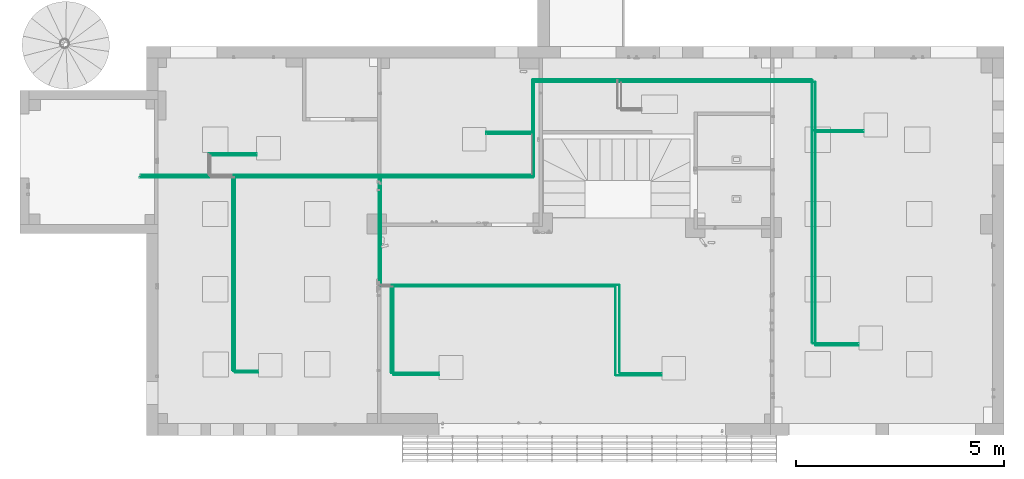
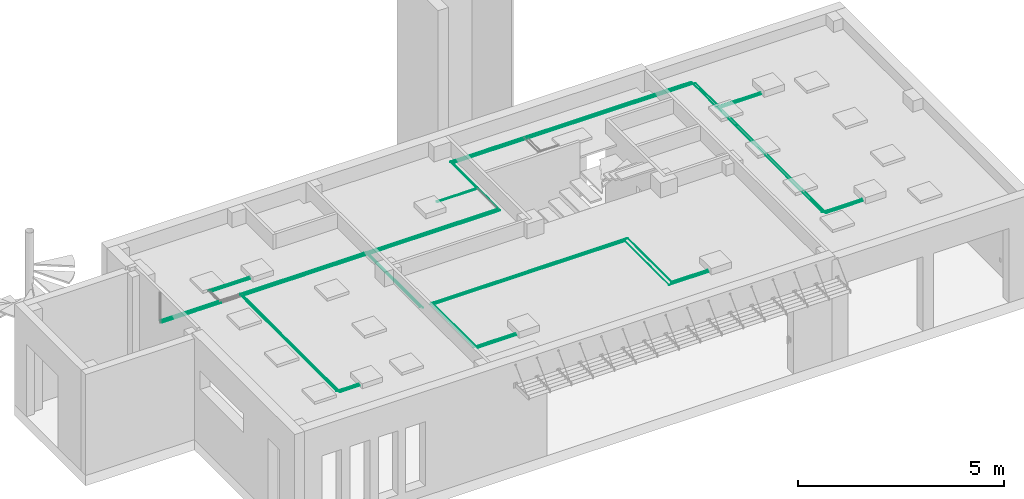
# One storey, part 5 of 24: 41 flow segments.
"""IFC2X3 building model written with IfcOpenShell, lengths in millimetres."""

from ifc_helpers import new_model, entity, si_unit, converted_unit, derived_unit, direction, frame, origin, origin_2d_with_axis, place, context, subcontext, project, spatial, circle, extrude, source, transform, mapped, material, type_object, type_shapes, element, save


model = new_model("IFC2X3")

# Units and contexts
model_context = context("Model", 3, precision=0.01, world=origin(), true_north=direction((6.123031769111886e-17, 1.0)))
body_context = subcontext(model_context, "Body", "Model", "MODEL_VIEW")
ifc_project = project(units=[si_unit("LENGTHUNIT", "METRE", prefix="MILLI"), si_unit("AREAUNIT", "SQUARE_METRE"), si_unit("VOLUMEUNIT", "CUBIC_METRE"), converted_unit("PLANEANGLEUNIT", "DEGREE", entity("IfcRatioMeasure", 0.017453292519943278), si_unit("PLANEANGLEUNIT", "RADIAN"), dimensions=[0, 0, 0, 0, 0, 0, 0]), si_unit("MASSUNIT", "GRAM", prefix="KILO"), derived_unit("MASSDENSITYUNIT", [(si_unit("MASSUNIT", "GRAM", prefix="KILO"), 1), (si_unit("LENGTHUNIT", "METRE"), -3)]), derived_unit("MOMENTOFINERTIAUNIT", [(si_unit("LENGTHUNIT", "METRE"), 4)]), si_unit("TIMEUNIT", "SECOND"), si_unit("FREQUENCYUNIT", "HERTZ"), si_unit("THERMODYNAMICTEMPERATUREUNIT", "DEGREE_CELSIUS"), derived_unit("THERMALTRANSMITTANCEUNIT", [(si_unit("MASSUNIT", "GRAM", prefix="KILO"), 1), (si_unit("THERMODYNAMICTEMPERATUREUNIT", "KELVIN"), -1), (si_unit("TIMEUNIT", "SECOND"), -3)]), derived_unit("VOLUMETRICFLOWRATEUNIT", [(si_unit("LENGTHUNIT", "METRE"), 3), (si_unit("TIMEUNIT", "SECOND"), -1)]), derived_unit("MASSFLOWRATEUNIT", [(si_unit("MASSUNIT", "GRAM", prefix="KILO"), 1), (si_unit("TIMEUNIT", "SECOND"), -1)]), derived_unit("ROTATIONALFREQUENCYUNIT", [(si_unit("TIMEUNIT", "SECOND"), -1)]), si_unit("ELECTRICCURRENTUNIT", "AMPERE"), si_unit("ELECTRICVOLTAGEUNIT", "VOLT"), si_unit("POWERUNIT", "WATT"), si_unit("FORCEUNIT", "NEWTON", prefix="KILO"), si_unit("ILLUMINANCEUNIT", "LUX"), si_unit("LUMINOUSFLUXUNIT", "LUMEN"), si_unit("LUMINOUSINTENSITYUNIT", "CANDELA"), derived_unit("USERDEFINED", [(si_unit("MASSUNIT", "GRAM", prefix="KILO"), -1), (si_unit("LENGTHUNIT", "METRE"), -2), (si_unit("TIMEUNIT", "SECOND"), 3), (si_unit("LUMINOUSFLUXUNIT", "LUMEN"), 1)]), derived_unit("SOUNDPOWERUNIT", [(si_unit("MASSUNIT", "GRAM", prefix="KILO"), 1), (si_unit("LENGTHUNIT", "METRE"), 2), (si_unit("TIMEUNIT", "SECOND"), -3)]), derived_unit("SOUNDPRESSUREUNIT", [(si_unit("MASSUNIT", "GRAM", prefix="KILO"), 1), (si_unit("LENGTHUNIT", "METRE"), -1), (si_unit("TIMEUNIT", "SECOND"), -2)]), derived_unit("LINEARVELOCITYUNIT", [(si_unit("LENGTHUNIT", "METRE"), 1), (si_unit("TIMEUNIT", "SECOND"), -1)]), si_unit("PRESSUREUNIT", "PASCAL"), derived_unit("USERDEFINED", [(si_unit("LENGTHUNIT", "METRE"), -2), (si_unit("MASSUNIT", "GRAM", prefix="KILO"), 1), (si_unit("TIMEUNIT", "SECOND"), -2)]), derived_unit("LINEARFORCEUNIT", [(si_unit("MASSUNIT", "GRAM", prefix="KILO"), 1), (si_unit("LENGTHUNIT", "METRE"), 1), (si_unit("TIMEUNIT", "SECOND"), -2), (si_unit("LENGTHUNIT", "METRE"), -1)]), derived_unit("PLANARFORCEUNIT", [(si_unit("MASSUNIT", "GRAM", prefix="KILO"), 1), (si_unit("LENGTHUNIT", "METRE"), 1), (si_unit("TIMEUNIT", "SECOND"), -2), (si_unit("LENGTHUNIT", "METRE"), -2)])], contexts=[model_context])

# Site, building, storey
site_placement = place(None, origin())
site = spatial("IfcSite", under=ifc_project, at=site_placement, Name="Default", CompositionType="ELEMENT")
building_placement = place(site_placement, origin())
building = spatial("IfcBuilding", under=site, at=building_placement, CompositionType="ELEMENT")
storey_placement = place(building_placement, origin())
storey = spatial("IfcBuildingStorey", under=building, at=storey_placement, Name="Level 1", CompositionType="ELEMENT", Elevation=0.0)

# Flow segments
ifc_material = material(Name="<Unnamed>")
pipe_segment_type_1 = type_object("IfcPipeSegmentType", Name="Pipe Types:Standard:Standard : Pipe Types:Standard", PredefinedType="NOTDEFINED", material=ifc_material)
shared_shape_1 = source(origin(), body_context, "Body", "SweptSolid", [
    extrude(circle(Radius=6.35, at=origin_2d_with_axis()), frame((6624.9039854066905, -1863.729256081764, 2710.0), z_axis=(1.0, 0.0, 0.0), x_axis=(0.0, 1.0, 0.0)), (0.0, 0.0, 1.0), 1101.7437499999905),
])
type_shapes(pipe_segment_type_1, [shared_shape_1])
flow_segment_1_placement = place(storey_placement, origin())
element("IfcFlowSegment", 1, at=flow_segment_1_placement, inside=storey, type_object=pipe_segment_type_1, material=ifc_material, Name="Pipe Types:Standard:Standard : Pipe Types:Standard:Standard:Standard : Pipe Types:Standard : Pipe Types:Standard:Standard : Pipe Types:Standard", ObjectType="Pipe Types:Standard:Standard : Pipe Types:Standard:Standard:Standard : Pipe Types:Standard : Pipe Types:Standard:Standard : Pipe Types:Standard", context=body_context, shape_type="MappedRepresentation", body=[
    mapped(shared_shape_1, transform((0.0, 0.0, 0.0), scale=1.0)),
])
pipe_segment_type_2 = type_object("IfcPipeSegmentType", Name="Pipe Types:Standard:Standard : Pipe Types:Standard", PredefinedType="NOTDEFINED", material=ifc_material)
shared_shape_2 = source(origin(), body_context, "Body", "SweptSolid", [
    extrude(circle(Radius=6.35, at=origin_2d_with_axis()), frame((6610.616485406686, 3287.32619877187, 2710.0), z_axis=(0.0, 1.0, 0.0), x_axis=(1.0, 0.0, 0.0)), (0.0, 0.0, 1.0), 1188.40704514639),
])
type_shapes(pipe_segment_type_2, [shared_shape_2])
flow_segment_2_placement = place(storey_placement, origin())
element("IfcFlowSegment", 2, at=flow_segment_2_placement, inside=storey, type_object=pipe_segment_type_2, material=ifc_material, Name="Pipe Types:Standard:Standard : Pipe Types:Standard:Standard:Standard : Pipe Types:Standard : Pipe Types:Standard:Standard : Pipe Types:Standard", ObjectType="Pipe Types:Standard:Standard : Pipe Types:Standard:Standard:Standard : Pipe Types:Standard : Pipe Types:Standard:Standard : Pipe Types:Standard", context=body_context, shape_type="MappedRepresentation", body=[
    mapped(shared_shape_2, transform((0.0, 0.0, 0.0), scale=1.0)),
])
pipe_segment_type_3 = type_object("IfcPipeSegmentType", Name="Pipe Types:Standard:Standard : Pipe Types:Standard", PredefinedType="NOTDEFINED", material=ifc_material)
shared_shape_3 = source(origin(), body_context, "Body", "SweptSolid", [
    extrude(circle(Radius=3.175, at=origin_2d_with_axis()), frame((6700.14148540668, -1911.8542560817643, 2690.0), z_axis=(1.0, 0.0, 0.0), x_axis=(0.0, 1.0, 0.0)), (0.0, 0.0, 1.0), 1028.0812499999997),
])
type_shapes(pipe_segment_type_3, [shared_shape_3])
flow_segment_3_placement = place(storey_placement, origin())
element("IfcFlowSegment", 3, at=flow_segment_3_placement, inside=storey, type_object=pipe_segment_type_3, material=ifc_material, Name="Pipe Types:Standard:Standard : Pipe Types:Standard:Standard:Standard : Pipe Types:Standard : Pipe Types:Standard:Standard : Pipe Types:Standard", ObjectType="Pipe Types:Standard:Standard : Pipe Types:Standard:Standard:Standard : Pipe Types:Standard : Pipe Types:Standard:Standard : Pipe Types:Standard", context=body_context, shape_type="MappedRepresentation", body=[
    mapped(shared_shape_3, transform((0.0, 0.0, 0.0), scale=1.0)),
])
pipe_segment_type_4 = type_object("IfcPipeSegmentType", Name="Pipe Types:Standard:Standard : Pipe Types:Standard", PredefinedType="NOTDEFINED", material=ifc_material)
shared_shape_4 = source(origin(), body_context, "Body", "SweptSolid", [
    extrude(circle(Radius=3.97, at=origin_2d_with_axis()), frame((6690.6164854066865, 3236.8199487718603, 2690.0), z_axis=(0.0, 1.0, 0.0), x_axis=(1.0, 0.0, 0.0)), (0.0, 0.0, 1.0), 1183.1312023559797),
])
type_shapes(pipe_segment_type_4, [shared_shape_4])
flow_segment_4_placement = place(storey_placement, origin())
element("IfcFlowSegment", 4, at=flow_segment_4_placement, inside=storey, type_object=pipe_segment_type_4, material=ifc_material, Name="Pipe Types:Standard:Standard : Pipe Types:Standard:Standard:Standard : Pipe Types:Standard : Pipe Types:Standard:Standard : Pipe Types:Standard", ObjectType="Pipe Types:Standard:Standard : Pipe Types:Standard:Standard:Standard : Pipe Types:Standard : Pipe Types:Standard:Standard : Pipe Types:Standard", context=body_context, shape_type="MappedRepresentation", body=[
    mapped(shared_shape_4, transform((0.0, 0.0, 0.0), scale=1.0)),
])
pipe_segment_type_5 = type_object("IfcPipeSegmentType", Name="Pipe Types:Standard:Standard : Pipe Types:Standard", PredefinedType="NOTDEFINED", material=ifc_material)
shared_shape_5 = source(origin(), body_context, "Body", "SweptSolid", [
    extrude(circle(Radius=3.175, at=origin_2d_with_axis()), frame((6706.49148540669, 3218.563698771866, 2690.0), z_axis=(1.0, 0.0, 0.0), x_axis=(0.0, -1.0, 0.0)), (0.0, 0.0, 1.0), 1143.58271810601),
])
type_shapes(pipe_segment_type_5, [shared_shape_5])
flow_segment_5_placement = place(storey_placement, origin())
element("IfcFlowSegment", 5, at=flow_segment_5_placement, inside=storey, type_object=pipe_segment_type_5, material=ifc_material, Name="Pipe Types:Standard:Standard : Pipe Types:Standard:Standard:Standard : Pipe Types:Standard : Pipe Types:Standard:Standard : Pipe Types:Standard", ObjectType="Pipe Types:Standard:Standard : Pipe Types:Standard:Standard:Standard : Pipe Types:Standard : Pipe Types:Standard:Standard : Pipe Types:Standard", context=body_context, shape_type="MappedRepresentation", body=[
    mapped(shared_shape_5, transform((0.0, 0.0, 0.0), scale=1.0)),
])
pipe_segment_type_6 = type_object("IfcPipeSegmentType", Name="Pipe Types:Standard:Standard : Pipe Types:Standard", PredefinedType="NOTDEFINED", material=ifc_material)
shared_shape_6 = source(origin(), body_context, "Body", "SweptSolid", [
    extrude(circle(Radius=3.175, at=origin_2d_with_axis()), frame((6690.6164854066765, -1902.32925608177, 2690.0), z_axis=(0.0, 1.0, 0.0), x_axis=(1.0, 0.0, 0.0)), (0.0, 0.0, 1.0), 5105.01795485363),
])
type_shapes(pipe_segment_type_6, [shared_shape_6])
flow_segment_6_placement = place(storey_placement, origin())
element("IfcFlowSegment", 6, at=flow_segment_6_placement, inside=storey, type_object=pipe_segment_type_6, material=ifc_material, Name="Pipe Types:Standard:Standard : Pipe Types:Standard:Standard:Standard : Pipe Types:Standard : Pipe Types:Standard:Standard : Pipe Types:Standard", ObjectType="Pipe Types:Standard:Standard : Pipe Types:Standard:Standard:Standard : Pipe Types:Standard : Pipe Types:Standard:Standard : Pipe Types:Standard", context=body_context, shape_type="MappedRepresentation", body=[
    mapped(shared_shape_6, transform((0.0, 0.0, 0.0), scale=1.0)),
])
pipe_segment_type_7 = type_object("IfcPipeSegmentType", Name="Pipe Types:Standard:Standard : Pipe Types:Standard", PredefinedType="NOTDEFINED", material=ifc_material)
shared_shape_7 = source(origin(), body_context, "Body", "SweptSolid", [
    extrude(circle(Radius=6.35, at=origin_2d_with_axis()), frame((6631.25398540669, 3266.6886987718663, 2710.0), z_axis=(1.0, 0.0, 0.0), x_axis=(0.0, -1.0, 0.0)), (0.0, 0.0, 1.0), 1217.2452181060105),
])
type_shapes(pipe_segment_type_7, [shared_shape_7])
flow_segment_7_placement = place(storey_placement, origin())
element("IfcFlowSegment", 7, at=flow_segment_7_placement, inside=storey, type_object=pipe_segment_type_7, material=ifc_material, Name="Pipe Types:Standard:Standard : Pipe Types:Standard:Standard:Standard : Pipe Types:Standard : Pipe Types:Standard:Standard : Pipe Types:Standard", ObjectType="Pipe Types:Standard:Standard : Pipe Types:Standard:Standard:Standard : Pipe Types:Standard : Pipe Types:Standard:Standard : Pipe Types:Standard", context=body_context, shape_type="MappedRepresentation", body=[
    mapped(shared_shape_7, transform((0.0, 0.0, 0.0), scale=1.0)),
])
pipe_segment_type_8 = type_object("IfcPipeSegmentType", Name="Pipe Types:Standard:Standard : Pipe Types:Standard", PredefinedType="NOTDEFINED", material=ifc_material)
shared_shape_8 = source(origin(), body_context, "Body", "SweptSolid", [
    extrude(circle(Radius=6.35, at=origin_2d_with_axis()), frame((6610.616485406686, -1849.44175608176, 2710.0), z_axis=(0.0, 1.0, 0.0), x_axis=(1.0, 0.0, 0.0)), (0.0, 0.0, 1.0), 5095.49295485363),
])
type_shapes(pipe_segment_type_8, [shared_shape_8])
flow_segment_8_placement = place(storey_placement, origin())
element("IfcFlowSegment", 8, at=flow_segment_8_placement, inside=storey, type_object=pipe_segment_type_8, material=ifc_material, Name="Pipe Types:Standard:Standard : Pipe Types:Standard:Standard:Standard : Pipe Types:Standard : Pipe Types:Standard:Standard : Pipe Types:Standard", ObjectType="Pipe Types:Standard:Standard : Pipe Types:Standard:Standard:Standard : Pipe Types:Standard : Pipe Types:Standard:Standard : Pipe Types:Standard", context=body_context, shape_type="MappedRepresentation", body=[
    mapped(shared_shape_8, transform((0.0, 0.0, 0.0), scale=1.0)),
])
pipe_segment_type_9 = type_object("IfcPipeSegmentType", Name="Pipe Types:Standard:Standard : Pipe Types:Standard", PredefinedType="NOTDEFINED", material=ifc_material)
shared_shape_9 = source(origin(), body_context, "Body", "SweptSolid", [
    extrude(circle(Radius=3.97, at=origin_2d_with_axis()), frame((2030.1375495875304, 4431.063651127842, 2690.0), z_axis=(1.0, 0.0, 0.0), x_axis=(0.0, -1.0, 0.0)), (0.0, 0.0, 1.0), 4649.366435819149),
])
type_shapes(pipe_segment_type_9, [shared_shape_9])
flow_segment_9_placement = place(storey_placement, origin())
element("IfcFlowSegment", 9, at=flow_segment_9_placement, inside=storey, type_object=pipe_segment_type_9, material=ifc_material, Name="Pipe Types:Standard:Standard : Pipe Types:Standard:Standard:Standard : Pipe Types:Standard : Pipe Types:Standard:Standard : Pipe Types:Standard", ObjectType="Pipe Types:Standard:Standard : Pipe Types:Standard:Standard:Standard : Pipe Types:Standard : Pipe Types:Standard:Standard : Pipe Types:Standard", context=body_context, shape_type="MappedRepresentation", body=[
    mapped(shared_shape_9, transform((0.0, 0.0, 0.0), scale=1.0)),
])
pipe_segment_type_10 = type_object("IfcPipeSegmentType", Name="Pipe Types:Standard:Standard : Pipe Types:Standard", PredefinedType="NOTDEFINED", material=ifc_material)
shared_shape_10 = source(origin(), body_context, "Body", "SweptSolid", [
    extrude(circle(Radius=6.35, at=origin_2d_with_axis()), frame((-114.734906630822, 4490.020743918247, 2710.0), z_axis=(1.0, 0.0, 0.0), x_axis=(0.0, 1.0, 0.0)), (0.0, 0.0, 1.0), 2017.24745621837),
])
type_shapes(pipe_segment_type_10, [shared_shape_10])
flow_segment_10_placement = place(storey_placement, origin())
element("IfcFlowSegment", 10, at=flow_segment_10_placement, inside=storey, type_object=pipe_segment_type_10, material=ifc_material, Name="Pipe Types:Standard:Standard : Pipe Types:Standard:Standard:Standard : Pipe Types:Standard : Pipe Types:Standard:Standard : Pipe Types:Standard", ObjectType="Pipe Types:Standard:Standard : Pipe Types:Standard:Standard:Standard : Pipe Types:Standard : Pipe Types:Standard:Standard : Pipe Types:Standard", context=body_context, shape_type="MappedRepresentation", body=[
    mapped(shared_shape_10, transform((0.0, 0.0, 0.0), scale=1.0)),
])
pipe_segment_type_11 = type_object("IfcPipeSegmentType", Name="Pipe Types:Standard:Standard : Pipe Types:Standard", PredefinedType="NOTDEFINED", material=ifc_material)
shared_shape_11 = source(origin(), body_context, "Body", "SweptSolid", [
    extrude(circle(Radius=6.35, at=origin_2d_with_axis()), frame((1987.49093113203, -2588.319478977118, 2710.0), z_axis=(1.0, 0.0, 0.0), x_axis=(0.0, 1.0, 0.0)), (0.0, 0.0, 1.0), 1001.74375),
])
type_shapes(pipe_segment_type_11, [shared_shape_11])
flow_segment_11_placement = place(storey_placement, origin())
element("IfcFlowSegment", 11, at=flow_segment_11_placement, inside=storey, type_object=pipe_segment_type_11, material=ifc_material, Name="Pipe Types:Standard:Standard : Pipe Types:Standard:Standard:Standard : Pipe Types:Standard : Pipe Types:Standard:Standard : Pipe Types:Standard", ObjectType="Pipe Types:Standard:Standard : Pipe Types:Standard:Standard:Standard : Pipe Types:Standard : Pipe Types:Standard:Standard : Pipe Types:Standard", context=body_context, shape_type="MappedRepresentation", body=[
    mapped(shared_shape_11, transform((0.0, 0.0, 0.0), scale=1.0)),
])
pipe_segment_type_12 = type_object("IfcPipeSegmentType", Name="Pipe Types:Standard:Standard : Pipe Types:Standard", PredefinedType="NOTDEFINED", material=ifc_material)
shared_shape_12 = source(origin(), body_context, "Body", "SweptSolid", [
    extrude(circle(Radius=6.35, at=origin_2d_with_axis()), frame((1973.203431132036, -2574.03197897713, 2710.0), z_axis=(0.0, 1.0, 0.0), x_axis=(1.0, 0.0, 0.0)), (0.0, 0.0, 1.0), 2105.17500000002),
])
type_shapes(pipe_segment_type_12, [shared_shape_12])
flow_segment_12_placement = place(storey_placement, origin())
element("IfcFlowSegment", 12, at=flow_segment_12_placement, inside=storey, type_object=pipe_segment_type_12, material=ifc_material, Name="Pipe Types:Standard:Standard : Pipe Types:Standard:Standard:Standard : Pipe Types:Standard : Pipe Types:Standard:Standard : Pipe Types:Standard", ObjectType="Pipe Types:Standard:Standard : Pipe Types:Standard:Standard:Standard : Pipe Types:Standard : Pipe Types:Standard:Standard : Pipe Types:Standard", context=body_context, shape_type="MappedRepresentation", body=[
    mapped(shared_shape_12, transform((0.0, 0.0, 0.0), scale=1.0)),
])
pipe_segment_type_13 = type_object("IfcPipeSegmentType", Name="Pipe Types:Standard:Standard : Pipe Types:Standard", PredefinedType="NOTDEFINED", material=ifc_material)
shared_shape_13 = source(origin(), body_context, "Body", "SweptSolid", [
    extrude(circle(Radius=6.35, at=origin_2d_with_axis()), frame((-3522.82243921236, -2573.8965935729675, 2710.0), z_axis=(1.0, 0.0, 0.0), x_axis=(0.0, 1.0, 0.0)), (0.0, 0.0, 1.0), 1146.7437500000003),
])
type_shapes(pipe_segment_type_13, [shared_shape_13])
flow_segment_13_placement = place(storey_placement, origin())
element("IfcFlowSegment", 13, at=flow_segment_13_placement, inside=storey, type_object=pipe_segment_type_13, material=ifc_material, Name="Pipe Types:Standard:Standard : Pipe Types:Standard:Standard:Standard : Pipe Types:Standard : Pipe Types:Standard:Standard : Pipe Types:Standard", ObjectType="Pipe Types:Standard:Standard : Pipe Types:Standard:Standard:Standard : Pipe Types:Standard : Pipe Types:Standard:Standard : Pipe Types:Standard", context=body_context, shape_type="MappedRepresentation", body=[
    mapped(shared_shape_13, transform((0.0, 0.0, 0.0), scale=1.0)),
])
pipe_segment_type_14 = type_object("IfcPipeSegmentType", Name="Pipe Types:Standard:Standard : Pipe Types:Standard", PredefinedType="NOTDEFINED", material=ifc_material)
shared_shape_14 = source(origin(), body_context, "Body", "SweptSolid", [
    extrude(circle(Radius=6.35, at=origin_2d_with_axis()), frame((-3537.1099392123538, -2559.60909357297, 2710.0), z_axis=(0.0, 1.0, 0.0), x_axis=(-1.0, 0.0, 0.0)), (0.0, 0.0, 1.0), 2084.40211459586),
])
type_shapes(pipe_segment_type_14, [shared_shape_14])
flow_segment_14_placement = place(storey_placement, origin())
element("IfcFlowSegment", 14, at=flow_segment_14_placement, inside=storey, type_object=pipe_segment_type_14, material=ifc_material, Name="Pipe Types:Standard:Standard : Pipe Types:Standard:Standard:Standard : Pipe Types:Standard : Pipe Types:Standard:Standard : Pipe Types:Standard", ObjectType="Pipe Types:Standard:Standard : Pipe Types:Standard:Standard:Standard : Pipe Types:Standard : Pipe Types:Standard:Standard : Pipe Types:Standard", context=body_context, shape_type="MappedRepresentation", body=[
    mapped(shared_shape_14, transform((0.0, 0.0, 0.0), scale=1.0)),
])
pipe_segment_type_15 = type_object("IfcPipeSegmentType", Name="Pipe Types:Standard:Standard : Pipe Types:Standard", PredefinedType="NOTDEFINED", material=ifc_material)
shared_shape_15 = source(origin(), body_context, "Body", "SweptSolid", [
    extrude(circle(Radius=6.35, at=origin_2d_with_axis()), frame((-3516.4724392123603, -454.5694789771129, 2710.0), z_axis=(1.0, 0.0, 0.0), x_axis=(0.0, 1.0, 0.0)), (0.0, 0.0, 1.0), 5475.388370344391),
])
type_shapes(pipe_segment_type_15, [shared_shape_15])
flow_segment_15_placement = place(storey_placement, origin())
element("IfcFlowSegment", 15, at=flow_segment_15_placement, inside=storey, type_object=pipe_segment_type_15, material=ifc_material, Name="Pipe Types:Standard:Standard : Pipe Types:Standard:Standard:Standard : Pipe Types:Standard : Pipe Types:Standard:Standard : Pipe Types:Standard", ObjectType="Pipe Types:Standard:Standard : Pipe Types:Standard:Standard:Standard : Pipe Types:Standard : Pipe Types:Standard:Standard : Pipe Types:Standard", context=body_context, shape_type="MappedRepresentation", body=[
    mapped(shared_shape_15, transform((0.0, 0.0, 0.0), scale=1.0)),
])
pipe_segment_type_16 = type_object("IfcPipeSegmentType", Name="Pipe Types:Standard:Standard : Pipe Types:Standard", PredefinedType="NOTDEFINED", material=ifc_material)
shared_shape_16 = source(origin(), body_context, "Body", "SweptSolid", [
    extrude(circle(Radius=3.97, at=origin_2d_with_axis()), frame((1885.1096811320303, -2636.444478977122, 2690.0), z_axis=(1.0, 0.0, 0.0), x_axis=(0.0, 1.0, 0.0)), (0.0, 0.0, 1.0), 1105.7000000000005),
])
type_shapes(pipe_segment_type_16, [shared_shape_16])
flow_segment_16_placement = place(storey_placement, origin())
element("IfcFlowSegment", 16, at=flow_segment_16_placement, inside=storey, type_object=pipe_segment_type_16, material=ifc_material, Name="Pipe Types:Standard:Standard : Pipe Types:Standard:Standard:Standard : Pipe Types:Standard : Pipe Types:Standard:Standard : Pipe Types:Standard", ObjectType="Pipe Types:Standard:Standard : Pipe Types:Standard:Standard:Standard : Pipe Types:Standard : Pipe Types:Standard:Standard : Pipe Types:Standard", context=body_context, shape_type="MappedRepresentation", body=[
    mapped(shared_shape_16, transform((0.0, 0.0, 0.0), scale=1.0)),
])
pipe_segment_type_17 = type_object("IfcPipeSegmentType", Name="Pipe Types:Standard:Standard : Pipe Types:Standard", PredefinedType="NOTDEFINED", material=ifc_material)
shared_shape_17 = source(origin(), body_context, "Body", "SweptSolid", [
    extrude(circle(Radius=3.175, at=origin_2d_with_axis()), frame((1873.203431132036, -2626.91947897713, 2690.0), z_axis=(0.0, 1.0, 0.0), x_axis=(1.0, 0.0, 0.0)), (0.0, 0.0, 1.0), 2119.07500000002),
])
type_shapes(pipe_segment_type_17, [shared_shape_17])
flow_segment_17_placement = place(storey_placement, origin())
element("IfcFlowSegment", 17, at=flow_segment_17_placement, inside=storey, type_object=pipe_segment_type_17, material=ifc_material, Name="Pipe Types:Standard:Standard : Pipe Types:Standard:Standard:Standard : Pipe Types:Standard : Pipe Types:Standard:Standard : Pipe Types:Standard", ObjectType="Pipe Types:Standard:Standard : Pipe Types:Standard:Standard:Standard : Pipe Types:Standard : Pipe Types:Standard:Standard : Pipe Types:Standard", context=body_context, shape_type="MappedRepresentation", body=[
    mapped(shared_shape_17, transform((0.0, 0.0, 0.0), scale=1.0)),
])
pipe_segment_type_18 = type_object("IfcPipeSegmentType", Name="Pipe Types:Standard:Standard : Pipe Types:Standard", PredefinedType="NOTDEFINED", material=ifc_material)
shared_shape_18 = source(origin(), body_context, "Body", "SweptSolid", [
    extrude(circle(Radius=3.175, at=origin_2d_with_axis()), frame((-3462.58493921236, -2622.02159357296, 2690.0), z_axis=(1.0, 0.0, 0.0), x_axis=(0.0, 1.0, 0.0)), (0.0, 0.0, 1.0), 1088.0812500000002),
])
type_shapes(pipe_segment_type_18, [shared_shape_18])
flow_segment_18_placement = place(storey_placement, origin())
element("IfcFlowSegment", 18, at=flow_segment_18_placement, inside=storey, type_object=pipe_segment_type_18, material=ifc_material, Name="Pipe Types:Standard:Standard : Pipe Types:Standard:Standard:Standard : Pipe Types:Standard : Pipe Types:Standard:Standard : Pipe Types:Standard", ObjectType="Pipe Types:Standard:Standard : Pipe Types:Standard:Standard:Standard : Pipe Types:Standard : Pipe Types:Standard:Standard : Pipe Types:Standard", context=body_context, shape_type="MappedRepresentation", body=[
    mapped(shared_shape_18, transform((0.0, 0.0, 0.0), scale=1.0)),
])
pipe_segment_type_19 = type_object("IfcPipeSegmentType", Name="Pipe Types:Standard:Standard : Pipe Types:Standard", PredefinedType="NOTDEFINED", material=ifc_material)
shared_shape_19 = source(origin(), body_context, "Body", "SweptSolid", [
    extrude(circle(Radius=3.175, at=origin_2d_with_axis()), frame((-3472.1099392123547, -2612.496593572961, 2690.0), z_axis=(0.0, 1.0, 0.0), x_axis=(-1.0, 0.0, 0.0)), (0.0, 0.0, 1.0), 2094.33336459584),
])
type_shapes(pipe_segment_type_19, [shared_shape_19])
flow_segment_19_placement = place(storey_placement, origin())
element("IfcFlowSegment", 19, at=flow_segment_19_placement, inside=storey, type_object=pipe_segment_type_19, material=ifc_material, Name="Pipe Types:Standard:Standard : Pipe Types:Standard:Standard:Standard : Pipe Types:Standard : Pipe Types:Standard:Standard : Pipe Types:Standard", ObjectType="Pipe Types:Standard:Standard : Pipe Types:Standard:Standard:Standard : Pipe Types:Standard : Pipe Types:Standard:Standard : Pipe Types:Standard", context=body_context, shape_type="MappedRepresentation", body=[
    mapped(shared_shape_19, transform((0.0, 0.0, 0.0), scale=1.0)),
])
pipe_segment_type_20 = type_object("IfcPipeSegmentType", Name="Pipe Types:Standard:Standard : Pipe Types:Standard", PredefinedType="NOTDEFINED", material=ifc_material)
shared_shape_20 = source(origin(), body_context, "Body", "SweptSolid", [
    extrude(circle(Radius=3.175, at=origin_2d_with_axis()), frame((-3452.26618921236, -498.3194789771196, 2690.0), z_axis=(1.0, 0.0, 0.0), x_axis=(0.0, 1.0, 0.0)), (0.0, 0.0, 1.0), 5315.94462034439),
])
type_shapes(pipe_segment_type_20, [shared_shape_20])
flow_segment_20_placement = place(storey_placement, origin())
element("IfcFlowSegment", 20, at=flow_segment_20_placement, inside=storey, type_object=pipe_segment_type_20, material=ifc_material, Name="Pipe Types:Standard:Standard : Pipe Types:Standard:Standard:Standard : Pipe Types:Standard : Pipe Types:Standard:Standard : Pipe Types:Standard", ObjectType="Pipe Types:Standard:Standard : Pipe Types:Standard:Standard:Standard : Pipe Types:Standard : Pipe Types:Standard:Standard : Pipe Types:Standard", context=body_context, shape_type="MappedRepresentation", body=[
    mapped(shared_shape_20, transform((0.0, 0.0, 0.0), scale=1.0)),
])
pipe_segment_type_21 = type_object("IfcPipeSegmentType", Name="Pipe Types:Standard:Standard : Pipe Types:Standard", PredefinedType="NOTDEFINED", material=ifc_material)
shared_shape_21 = source(origin(), body_context, "Body", "SweptSolid", [
    extrude(circle(Radius=6.35, at=origin_2d_with_axis()), frame((-3826.7965688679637, -440.28197897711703, 2710.0), z_axis=(0.0, 1.0, 0.0), x_axis=(1.0, 0.0, 0.0)), (0.0, 0.0, 1.0), 2611.52590571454),
])
type_shapes(pipe_segment_type_21, [shared_shape_21])
flow_segment_21_placement = place(storey_placement, origin())
element("IfcFlowSegment", 21, at=flow_segment_21_placement, inside=storey, type_object=pipe_segment_type_21, material=ifc_material, Name="Pipe Types:Standard:Standard : Pipe Types:Standard:Standard:Standard : Pipe Types:Standard : Pipe Types:Standard:Standard : Pipe Types:Standard", ObjectType="Pipe Types:Standard:Standard : Pipe Types:Standard:Standard:Standard : Pipe Types:Standard : Pipe Types:Standard:Standard : Pipe Types:Standard", context=body_context, shape_type="MappedRepresentation", body=[
    mapped(shared_shape_21, transform((0.0, 0.0, 0.0), scale=1.0)),
])
pipe_segment_type_22 = type_object("IfcPipeSegmentType", Name="Pipe Types:Standard:Standard : Pipe Types:Standard", PredefinedType="NOTDEFINED", material=ifc_material)
shared_shape_22 = source(origin(), body_context, "Body", "SweptSolid", [
    extrude(circle(Radius=3.97, at=origin_2d_with_axis()), frame((-3769.5724392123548, -487.206978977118, 2690.0), z_axis=(0.0, 1.0, 0.0), x_axis=(1.0, 0.0, 0.0)), (0.0, 0.0, 1.0), 2597.05218501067),
])
type_shapes(pipe_segment_type_22, [shared_shape_22])
flow_segment_22_placement = place(storey_placement, origin())
element("IfcFlowSegment", 22, at=flow_segment_22_placement, inside=storey, type_object=pipe_segment_type_22, material=ifc_material, Name="Pipe Types:Standard:Standard : Pipe Types:Standard:Standard:Standard : Pipe Types:Standard : Pipe Types:Standard:Standard : Pipe Types:Standard", ObjectType="Pipe Types:Standard:Standard : Pipe Types:Standard:Standard:Standard : Pipe Types:Standard : Pipe Types:Standard:Standard : Pipe Types:Standard", context=body_context, shape_type="MappedRepresentation", body=[
    mapped(shared_shape_22, transform((0.0, 0.0, 0.0), scale=1.0)),
])
pipe_segment_type_23 = type_object("IfcPipeSegmentType", Name="Pipe Types:Standard:Standard : Pipe Types:Standard", PredefinedType="NOTDEFINED", material=ifc_material)
shared_shape_23 = source(origin(), body_context, "Body", "SweptSolid", [
    extrude(circle(Radius=6.35, at=origin_2d_with_axis()), frame((-1235.88665967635, 3181.413526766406, 2710.0), z_axis=(1.0, 0.0, 0.0), x_axis=(0.0, -1.0, 0.0)), (0.0, 0.0, 1.0), 1086.22675304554),
])
type_shapes(pipe_segment_type_23, [shared_shape_23])
flow_segment_23_placement = place(storey_placement, origin())
element("IfcFlowSegment", 23, at=flow_segment_23_placement, inside=storey, type_object=pipe_segment_type_23, material=ifc_material, Name="Pipe Types:Standard:Standard : Pipe Types:Standard:Standard:Standard : Pipe Types:Standard : Pipe Types:Standard:Standard : Pipe Types:Standard", ObjectType="Pipe Types:Standard:Standard : Pipe Types:Standard:Standard:Standard : Pipe Types:Standard : Pipe Types:Standard:Standard : Pipe Types:Standard", context=body_context, shape_type="MappedRepresentation", body=[
    mapped(shared_shape_23, transform((0.0, 0.0, 0.0), scale=1.0)),
])
pipe_segment_type_24 = type_object("IfcPipeSegmentType", Name="Pipe Types:Standard:Standard : Pipe Types:Standard", PredefinedType="NOTDEFINED", material=ifc_material)
shared_shape_24 = source(origin(), body_context, "Body", "SweptSolid", [
    extrude(circle(Radius=3.175, at=origin_2d_with_axis()), frame((-1237.46165967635, 3229.5385267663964, 2690.0), z_axis=(1.0, 0.0, 0.0), x_axis=(0.0, -1.0, 0.0)), (0.0, 0.0, 1.0), 1127.21752864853),
])
type_shapes(pipe_segment_type_24, [shared_shape_24])
flow_segment_24_placement = place(storey_placement, origin())
element("IfcFlowSegment", 24, at=flow_segment_24_placement, inside=storey, type_object=pipe_segment_type_24, material=ifc_material, Name="Pipe Types:Standard:Standard : Pipe Types:Standard:Standard:Standard : Pipe Types:Standard : Pipe Types:Standard:Standard : Pipe Types:Standard", ObjectType="Pipe Types:Standard:Standard : Pipe Types:Standard:Standard:Standard : Pipe Types:Standard : Pipe Types:Standard:Standard : Pipe Types:Standard", context=body_context, shape_type="MappedRepresentation", body=[
    mapped(shared_shape_24, transform((0.0, 0.0, 0.0), scale=1.0)),
])
pipe_segment_type_25 = type_object("IfcPipeSegmentType", Name="Pipe Types:Standard:Standard : Pipe Types:Standard", PredefinedType="NOTDEFINED", material=ifc_material)
shared_shape_25 = source(origin(), body_context, "Body", "SweptSolid", [
    extrude(circle(Radius=4.76, at=origin_2d_with_axis()), frame((-90.4003810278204, 2144.77020603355, 2690.0), z_axis=(0.0, 1.0, 0.0), x_axis=(-1.0, 0.0, 0.0)), (0.0, 0.0, 1.0), 1064.1308207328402),
])
type_shapes(pipe_segment_type_25, [shared_shape_25])
flow_segment_25_placement = place(storey_placement, origin())
element("IfcFlowSegment", 25, at=flow_segment_25_placement, inside=storey, type_object=pipe_segment_type_25, material=ifc_material, Name="Pipe Types:Standard:Standard : Pipe Types:Standard:Standard:Standard : Pipe Types:Standard : Pipe Types:Standard:Standard : Pipe Types:Standard", ObjectType="Pipe Types:Standard:Standard : Pipe Types:Standard:Standard:Standard : Pipe Types:Standard : Pipe Types:Standard:Standard : Pipe Types:Standard", context=body_context, shape_type="MappedRepresentation", body=[
    mapped(shared_shape_25, transform((0.0, 0.0, 0.0), scale=1.0)),
])
pipe_segment_type_26 = type_object("IfcPipeSegmentType", Name="Pipe Types:Standard:Standard : Pipe Types:Standard", PredefinedType="NOTDEFINED", material=ifc_material)
shared_shape_26 = source(origin(), body_context, "Body", "SweptSolid", [
    extrude(circle(Radius=3.97, at=origin_2d_with_axis()), frame((-90.40038102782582, 3247.001026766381, 2690.0), z_axis=(0.0, 1.0, 0.0), x_axis=(-1.0, 0.0, 0.0)), (0.0, 0.0, 1.0), 1172.9501243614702),
])
type_shapes(pipe_segment_type_26, [shared_shape_26])
flow_segment_26_placement = place(storey_placement, origin())
element("IfcFlowSegment", 26, at=flow_segment_26_placement, inside=storey, type_object=pipe_segment_type_26, material=ifc_material, Name="Pipe Types:Standard:Standard : Pipe Types:Standard:Standard:Standard : Pipe Types:Standard : Pipe Types:Standard:Standard : Pipe Types:Standard", ObjectType="Pipe Types:Standard:Standard : Pipe Types:Standard:Standard:Standard : Pipe Types:Standard : Pipe Types:Standard:Standard : Pipe Types:Standard", context=body_context, shape_type="MappedRepresentation", body=[
    mapped(shared_shape_26, transform((0.0, 0.0, 0.0), scale=1.0)),
])
pipe_segment_type_27 = type_object("IfcPipeSegmentType", Name="Pipe Types:Standard:Standard : Pipe Types:Standard", PredefinedType="NOTDEFINED", material=ifc_material)
shared_shape_27 = source(origin(), body_context, "Body", "SweptSolid", [
    extrude(circle(Radius=6.35, at=origin_2d_with_axis()), frame((-129.02240663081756, 3202.0510267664, 2710.0), z_axis=(0.0, 1.0, 0.0), x_axis=(-1.0, 0.0, 0.0)), (0.0, 0.0, 1.0), 1273.6822171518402),
])
type_shapes(pipe_segment_type_27, [shared_shape_27])
flow_segment_27_placement = place(storey_placement, origin())
element("IfcFlowSegment", 27, at=flow_segment_27_placement, inside=storey, type_object=pipe_segment_type_27, material=ifc_material, Name="Pipe Types:Standard:Standard : Pipe Types:Standard:Standard:Standard : Pipe Types:Standard : Pipe Types:Standard:Standard : Pipe Types:Standard", ObjectType="Pipe Types:Standard:Standard : Pipe Types:Standard:Standard:Standard : Pipe Types:Standard : Pipe Types:Standard:Standard : Pipe Types:Standard", context=body_context, shape_type="MappedRepresentation", body=[
    mapped(shared_shape_27, transform((0.0, 0.0, 0.0), scale=1.0)),
])
pipe_segment_type_28 = type_object("IfcPipeSegmentType", Name="Pipe Types:Standard:Standard : Pipe Types:Standard", PredefinedType="NOTDEFINED", material=ifc_material)
shared_shape_28 = source(origin(), body_context, "Body", "SweptSolid", [
    extrude(circle(Radius=6.35, at=origin_2d_with_axis()), frame((-3806.15906886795, 2191.064303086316, 2710.0), z_axis=(1.0, 0.0, 0.0), x_axis=(0.0, 1.0, 0.0)), (0.0, 0.0, 1.0), 3662.84916223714),
])
type_shapes(pipe_segment_type_28, [shared_shape_28])
flow_segment_28_placement = place(storey_placement, origin())
element("IfcFlowSegment", 28, at=flow_segment_28_placement, inside=storey, type_object=pipe_segment_type_28, material=ifc_material, Name="Pipe Types:Standard:Standard : Pipe Types:Standard:Standard:Standard : Pipe Types:Standard : Pipe Types:Standard:Standard : Pipe Types:Standard", ObjectType="Pipe Types:Standard:Standard : Pipe Types:Standard:Standard:Standard : Pipe Types:Standard : Pipe Types:Standard:Standard : Pipe Types:Standard", context=body_context, shape_type="MappedRepresentation", body=[
    mapped(shared_shape_28, transform((0.0, 0.0, 0.0), scale=1.0)),
])
pipe_segment_type_29 = type_object("IfcPipeSegmentType", Name="Pipe Types:Standard:Standard : Pipe Types:Standard", PredefinedType="NOTDEFINED", material=ifc_material)
shared_shape_29 = source(origin(), body_context, "Body", "SweptSolid", [
    extrude(circle(Radius=4.76, at=origin_2d_with_axis()), frame((-3750.52243921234, 2132.0702060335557, 2690.0), z_axis=(1.0, 0.0, 0.0), x_axis=(0.0, 1.0, 0.0)), (0.0, 0.0, 1.0), 3647.42205818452),
])
type_shapes(pipe_segment_type_29, [shared_shape_29])
flow_segment_29_placement = place(storey_placement, origin())
element("IfcFlowSegment", 29, at=flow_segment_29_placement, inside=storey, type_object=pipe_segment_type_29, material=ifc_material, Name="Pipe Types:Standard:Standard : Pipe Types:Standard:Standard:Standard : Pipe Types:Standard : Pipe Types:Standard:Standard : Pipe Types:Standard", ObjectType="Pipe Types:Standard:Standard : Pipe Types:Standard:Standard:Standard : Pipe Types:Standard : Pipe Types:Standard:Standard : Pipe Types:Standard", context=body_context, shape_type="MappedRepresentation", body=[
    mapped(shared_shape_29, transform((0.0, 0.0, 0.0), scale=1.0)),
])
pipe_segment_type_30 = type_object("IfcPipeSegmentType", Name="Pipe Types:Standard:Standard : Pipe Types:Standard", PredefinedType="NOTDEFINED", material=ifc_material)
shared_shape_30 = source(origin(), body_context, "Body", "SweptSolid", [
    extrude(circle(Radius=6.35, at=origin_2d_with_axis()), frame((-7915.506884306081, 2707.6144328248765, 2710.0), z_axis=(1.0, 0.0, 0.0), x_axis=(0.0, 1.0, 0.0)), (0.0, 0.0, 1.0), 1145.7125000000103),
])
type_shapes(pipe_segment_type_30, [shared_shape_30])
flow_segment_30_placement = place(storey_placement, origin())
element("IfcFlowSegment", 30, at=flow_segment_30_placement, inside=storey, type_object=pipe_segment_type_30, material=ifc_material, Name="Pipe Types:Standard:Standard : Pipe Types:Standard:Standard:Standard : Pipe Types:Standard : Pipe Types:Standard:Standard : Pipe Types:Standard", ObjectType="Pipe Types:Standard:Standard : Pipe Types:Standard:Standard:Standard : Pipe Types:Standard : Pipe Types:Standard:Standard : Pipe Types:Standard", context=body_context, shape_type="MappedRepresentation", body=[
    mapped(shared_shape_30, transform((0.0, 0.0, 0.0), scale=1.0)),
])
pipe_segment_type_31 = type_object("IfcPipeSegmentType", Name="Pipe Types:Standard:Standard : Pipe Types:Standard", PredefinedType="NOTDEFINED", material=ifc_material)
shared_shape_31 = source(origin(), body_context, "Body", "SweptSolid", [
    extrude(circle(Radius=3.175, at=origin_2d_with_axis()), frame((-7868.458124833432, 2659.489432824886, 2690.0), z_axis=(1.0, 0.0, 0.0), x_axis=(0.0, 1.0, 0.0)), (0.0, 0.0, 1.0), 1100.2387405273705),
])
type_shapes(pipe_segment_type_31, [shared_shape_31])
flow_segment_31_placement = place(storey_placement, origin())
element("IfcFlowSegment", 31, at=flow_segment_31_placement, inside=storey, type_object=pipe_segment_type_31, material=ifc_material, Name="Pipe Types:Standard:Standard : Pipe Types:Standard:Standard:Standard : Pipe Types:Standard : Pipe Types:Standard:Standard : Pipe Types:Standard", ObjectType="Pipe Types:Standard:Standard : Pipe Types:Standard:Standard:Standard : Pipe Types:Standard : Pipe Types:Standard:Standard : Pipe Types:Standard", context=body_context, shape_type="MappedRepresentation", body=[
    mapped(shared_shape_31, transform((0.0, 0.0, 0.0), scale=1.0)),
])
pipe_segment_type_32 = type_object("IfcPipeSegmentType", Name="Pipe Types:Standard:Standard : Pipe Types:Standard", PredefinedType="NOTDEFINED", material=ifc_material)
shared_shape_32 = source(origin(), body_context, "Body", "SweptSolid", [
    extrude(circle(Radius=4.76, at=origin_2d_with_axis()), frame((-9577.66342137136, 2132.040216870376, 2690.0), z_axis=(1.0, 0.0, 0.0), x_axis=(0.0, 1.0, 0.0)), (0.0, 0.0, 1.0), 1680.63029653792),
])
type_shapes(pipe_segment_type_32, [shared_shape_32])
flow_segment_32_placement = place(storey_placement, origin())
element("IfcFlowSegment", 32, at=flow_segment_32_placement, inside=storey, type_object=pipe_segment_type_32, material=ifc_material, Name="Pipe Types:Standard:Standard : Pipe Types:Standard:Standard:Standard : Pipe Types:Standard : Pipe Types:Standard:Standard : Pipe Types:Standard", ObjectType="Pipe Types:Standard:Standard : Pipe Types:Standard:Standard:Standard : Pipe Types:Standard : Pipe Types:Standard:Standard : Pipe Types:Standard", context=body_context, shape_type="MappedRepresentation", body=[
    mapped(shared_shape_32, transform((0.0, 0.0, 0.0), scale=1.0)),
])
pipe_segment_type_33 = type_object("IfcPipeSegmentType", Name="Pipe Types:Standard:Standard : Pipe Types:Standard", PredefinedType="NOTDEFINED", material=ifc_material)
shared_shape_33 = source(origin(), body_context, "Body", "SweptSolid", [
    extrude(circle(Radius=6.35, at=origin_2d_with_axis()), frame((-7333.389602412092, -2522.8035220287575, 2710.0), z_axis=(1.0, 0.0, 0.0), x_axis=(0.0, 1.0, 0.0)), (0.0, 0.0, 1.0), 601.7437499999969),
])
type_shapes(pipe_segment_type_33, [shared_shape_33])
flow_segment_33_placement = place(storey_placement, origin())
element("IfcFlowSegment", 33, at=flow_segment_33_placement, inside=storey, type_object=pipe_segment_type_33, material=ifc_material, Name="Pipe Types:Standard:Standard : Pipe Types:Standard:Standard:Standard : Pipe Types:Standard : Pipe Types:Standard:Standard : Pipe Types:Standard", ObjectType="Pipe Types:Standard:Standard : Pipe Types:Standard:Standard:Standard : Pipe Types:Standard : Pipe Types:Standard:Standard : Pipe Types:Standard", context=body_context, shape_type="MappedRepresentation", body=[
    mapped(shared_shape_33, transform((0.0, 0.0, 0.0), scale=1.0)),
])
pipe_segment_type_34 = type_object("IfcPipeSegmentType", Name="Pipe Types:Standard:Standard : Pipe Types:Standard", PredefinedType="NOTDEFINED", material=ifc_material)
shared_shape_34 = source(origin(), body_context, "Body", "SweptSolid", [
    extrude(circle(Radius=6.35, at=origin_2d_with_axis()), frame((-7347.677102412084, -2508.51602202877, 2710.0), z_axis=(0.0, 1.0, 0.0), x_axis=(-1.0, 0.0, 0.0)), (0.0, 0.0, 1.0), 4670.21157511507),
])
type_shapes(pipe_segment_type_34, [shared_shape_34])
flow_segment_34_placement = place(storey_placement, origin())
element("IfcFlowSegment", 34, at=flow_segment_34_placement, inside=storey, type_object=pipe_segment_type_34, material=ifc_material, Name="Pipe Types:Standard:Standard : Pipe Types:Standard:Standard:Standard : Pipe Types:Standard : Pipe Types:Standard:Standard : Pipe Types:Standard", ObjectType="Pipe Types:Standard:Standard : Pipe Types:Standard:Standard:Standard : Pipe Types:Standard : Pipe Types:Standard:Standard : Pipe Types:Standard", context=body_context, shape_type="MappedRepresentation", body=[
    mapped(shared_shape_34, transform((0.0, 0.0, 0.0), scale=1.0)),
])
pipe_segment_type_35 = type_object("IfcPipeSegmentType", Name="Pipe Types:Standard:Standard : Pipe Types:Standard", PredefinedType="NOTDEFINED", material=ifc_material)
shared_shape_35 = source(origin(), body_context, "Body", "SweptSolid", [
    extrude(circle(Radius=9.525, at=origin_2d_with_axis()), frame((-7323.86460241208, 2191.0643030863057, 2710.0), z_axis=(1.0, 0.0, 0.0), x_axis=(0.0, 1.0, 0.0)), (0.0, 0.0, 1.0), 3470.87428354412),
])
type_shapes(pipe_segment_type_35, [shared_shape_35])
flow_segment_35_placement = place(storey_placement, origin())
element("IfcFlowSegment", 35, at=flow_segment_35_placement, inside=storey, type_object=pipe_segment_type_35, material=ifc_material, Name="Pipe Types:Standard:Standard : Pipe Types:Standard:Standard:Standard : Pipe Types:Standard : Pipe Types:Standard:Standard : Pipe Types:Standard", ObjectType="Pipe Types:Standard:Standard : Pipe Types:Standard:Standard:Standard : Pipe Types:Standard : Pipe Types:Standard:Standard : Pipe Types:Standard", context=body_context, shape_type="MappedRepresentation", body=[
    mapped(shared_shape_35, transform((0.0, 0.0, 0.0), scale=1.0)),
])
pipe_segment_type_36 = type_object("IfcPipeSegmentType", Name="Pipe Types:Standard:Standard : Pipe Types:Standard", PredefinedType="NOTDEFINED", material=ifc_material)
shared_shape_36 = source(origin(), body_context, "Body", "SweptSolid", [
    extrude(circle(Radius=3.175, at=origin_2d_with_axis()), frame((-7278.15210241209, -2570.928522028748, 2690.0), z_axis=(1.0, 0.0, 0.0), x_axis=(0.0, 1.0, 0.0)), (0.0, 0.0, 1.0), 548.0812499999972),
])
type_shapes(pipe_segment_type_36, [shared_shape_36])
flow_segment_36_placement = place(storey_placement, origin())
element("IfcFlowSegment", 36, at=flow_segment_36_placement, inside=storey, type_object=pipe_segment_type_36, material=ifc_material, Name="Pipe Types:Standard:Standard : Pipe Types:Standard:Standard:Standard : Pipe Types:Standard : Pipe Types:Standard:Standard : Pipe Types:Standard", ObjectType="Pipe Types:Standard:Standard : Pipe Types:Standard:Standard:Standard : Pipe Types:Standard : Pipe Types:Standard:Standard : Pipe Types:Standard", context=body_context, shape_type="MappedRepresentation", body=[
    mapped(shared_shape_36, transform((0.0, 0.0, 0.0), scale=1.0)),
])
pipe_segment_type_37 = type_object("IfcPipeSegmentType", Name="Pipe Types:Standard:Standard : Pipe Types:Standard", PredefinedType="NOTDEFINED", material=ifc_material)
shared_shape_37 = source(origin(), body_context, "Body", "SweptSolid", [
    extrude(circle(Radius=3.175, at=origin_2d_with_axis()), frame((-7287.677102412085, -2561.40352202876, 2690.0), z_axis=(0.0, 1.0, 0.0), x_axis=(-1.0, 0.0, 0.0)), (0.0, 0.0, 1.0), 4671.24872806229),
])
type_shapes(pipe_segment_type_37, [shared_shape_37])
flow_segment_37_placement = place(storey_placement, origin())
element("IfcFlowSegment", 37, at=flow_segment_37_placement, inside=storey, type_object=pipe_segment_type_37, material=ifc_material, Name="Pipe Types:Standard:Standard : Pipe Types:Standard:Standard:Standard : Pipe Types:Standard : Pipe Types:Standard:Standard : Pipe Types:Standard", ObjectType="Pipe Types:Standard:Standard : Pipe Types:Standard:Standard:Standard : Pipe Types:Standard : Pipe Types:Standard:Standard : Pipe Types:Standard", context=body_context, shape_type="MappedRepresentation", body=[
    mapped(shared_shape_37, transform((0.0, 0.0, 0.0), scale=1.0)),
])
pipe_segment_type_38 = type_object("IfcPipeSegmentType", Name="Pipe Types:Standard:Standard : Pipe Types:Standard", PredefinedType="NOTDEFINED", material=ifc_material)
shared_shape_38 = source(origin(), body_context, "Body", "SweptSolid", [
    extrude(circle(Radius=4.76, at=origin_2d_with_axis()), frame((-7268.62710241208, 2132.0702060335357, 2690.0), z_axis=(1.0, 0.0, 0.0), x_axis=(0.0, 1.0, 0.0)), (0.0, 0.0, 1.0), 3480.00466319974),
])
type_shapes(pipe_segment_type_38, [shared_shape_38])
flow_segment_38_placement = place(storey_placement, origin())
element("IfcFlowSegment", 38, at=flow_segment_38_placement, inside=storey, type_object=pipe_segment_type_38, material=ifc_material, Name="Pipe Types:Standard:Standard : Pipe Types:Standard:Standard:Standard : Pipe Types:Standard : Pipe Types:Standard:Standard : Pipe Types:Standard", ObjectType="Pipe Types:Standard:Standard : Pipe Types:Standard:Standard:Standard : Pipe Types:Standard : Pipe Types:Standard:Standard : Pipe Types:Standard", context=body_context, shape_type="MappedRepresentation", body=[
    mapped(shared_shape_38, transform((0.0, 0.0, 0.0), scale=1.0)),
])
pipe_segment_type_39 = type_object("IfcPipeSegmentType", Name="Pipe Types:Standard:Standard : Pipe Types:Standard", PredefinedType="NOTDEFINED", material=ifc_material)
shared_shape_39 = source(origin(), body_context, "Body", "SweptSolid", [
    extrude(circle(Radius=9.525, at=origin_2d_with_axis()), frame((-9554.02710241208, 2191.0643030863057, 2710.0), z_axis=(1.0, 0.0, 0.0), x_axis=(0.0, 1.0, 0.0)), (0.0, 0.0, 1.0), 1600.4202181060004),
])
type_shapes(pipe_segment_type_39, [shared_shape_39])
flow_segment_39_placement = place(storey_placement, origin())
element("IfcFlowSegment", 39, at=flow_segment_39_placement, inside=storey, type_object=pipe_segment_type_39, material=ifc_material, Name="Pipe Types:Standard:Standard : Pipe Types:Standard:Standard:Standard : Pipe Types:Standard : Pipe Types:Standard:Standard : Pipe Types:Standard", ObjectType="Pipe Types:Standard:Standard : Pipe Types:Standard:Standard:Standard : Pipe Types:Standard : Pipe Types:Standard:Standard : Pipe Types:Standard", context=body_context, shape_type="MappedRepresentation", body=[
    mapped(shared_shape_39, transform((0.0, 0.0, 0.0), scale=1.0)),
])
pipe_segment_type_40 = type_object("IfcPipeSegmentType", Name="Pipe Types:Standard:Standard : Pipe Types:Standard", PredefinedType="NOTDEFINED", material=ifc_material)
shared_shape_40 = source(origin(), body_context, "Body", "SweptSolid", [
    extrude(circle(Radius=3.97, at=origin_2d_with_axis()), frame((-79.2878810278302, 4431.063651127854, 2690.0), z_axis=(1.0, 0.0, 0.0), x_axis=(0.0, -1.0, 0.0)), (0.0, 0.0, 1.0), 2074.50043061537),
])
type_shapes(pipe_segment_type_40, [shared_shape_40])
flow_segment_40_placement = place(storey_placement, origin())
element("IfcFlowSegment", 40, at=flow_segment_40_placement, inside=storey, type_object=pipe_segment_type_40, material=ifc_material, Name="Pipe Types:Standard:Standard : Pipe Types:Standard:Standard:Standard : Pipe Types:Standard : Pipe Types:Standard:Standard : Pipe Types:Standard", ObjectType="Pipe Types:Standard:Standard : Pipe Types:Standard:Standard:Standard : Pipe Types:Standard : Pipe Types:Standard:Standard : Pipe Types:Standard", context=body_context, shape_type="MappedRepresentation", body=[
    mapped(shared_shape_40, transform((0.0, 0.0, 0.0), scale=1.0)),
])
pipe_segment_type_41 = type_object("IfcPipeSegmentType", Name="Pipe Types:Standard:Standard : Pipe Types:Standard", PredefinedType="NOTDEFINED", material=ifc_material)
shared_shape_41 = source(origin(), body_context, "Body", "SweptSolid", [
    extrude(circle(Radius=6.35, at=origin_2d_with_axis()), frame((1943.78754958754, 4490.02074391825, 2710.0), z_axis=(1.0, 0.0, 0.0), x_axis=(0.0, 1.0, 0.0)), (0.0, 0.0, 1.0), 4652.54143581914),
])
type_shapes(pipe_segment_type_41, [shared_shape_41])
flow_segment_41_placement = place(storey_placement, origin())
element("IfcFlowSegment", 41, at=flow_segment_41_placement, inside=storey, type_object=pipe_segment_type_41, material=ifc_material, Name="Pipe Types:Standard:Standard : Pipe Types:Standard:Standard:Standard : Pipe Types:Standard : Pipe Types:Standard:Standard : Pipe Types:Standard", ObjectType="Pipe Types:Standard:Standard : Pipe Types:Standard:Standard:Standard : Pipe Types:Standard : Pipe Types:Standard:Standard : Pipe Types:Standard", context=body_context, shape_type="MappedRepresentation", body=[
    mapped(shared_shape_41, transform((0.0, 0.0, 0.0), scale=1.0)),
])

save(model, "model.ifc")
